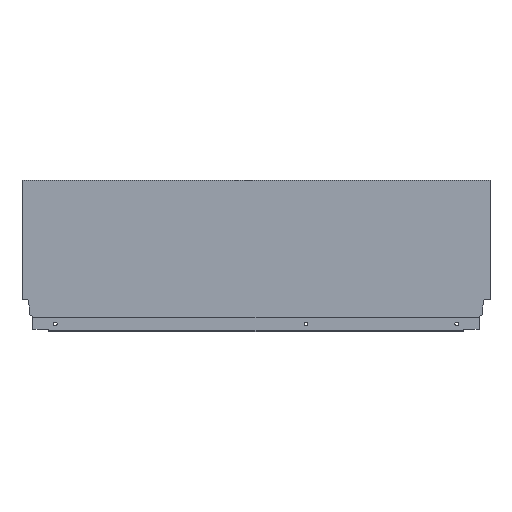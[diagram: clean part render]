
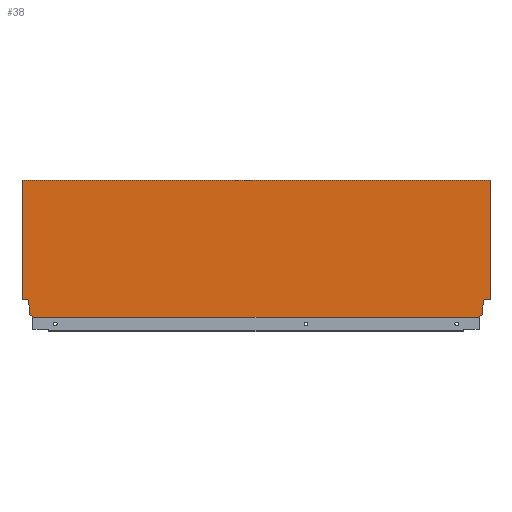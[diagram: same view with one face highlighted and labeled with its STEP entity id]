
A CAD part, top view. The second image highlights one B-rep face of the part: STEP entity #38.
In plain terms, the highlighted planar face has unit normal (0, 0, 1).
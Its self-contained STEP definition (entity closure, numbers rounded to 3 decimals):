
#38 = ADVANCED_FACE ( 'NONE', ( #87 ), #348, .T. ) ;
#87 = FACE_OUTER_BOUND ( 'NONE', #111, .T. ) ;
#111 = EDGE_LOOP ( 'NONE', ( #1315, #1314, #1319, #1318, #1414, #1408, #1340, #1313, #1334, #1333, #1316, #1458, #1457, #1406 ) ) ;
#193 = DIRECTION ( 'NONE',  ( 1., 0., 0. ) ) ;
#194 = CARTESIAN_POINT ( 'NONE',  ( -563., 164.7, 7.5 ) ) ;
#195 = DIRECTION ( 'NONE',  ( -1., 0., 0. ) ) ;
#197 = CARTESIAN_POINT ( 'NONE',  ( -568., 21.2, 7.5 ) ) ;
#227 = CARTESIAN_POINT ( 'NONE',  ( 0., 164.7, 7.5 ) ) ;
#242 = CARTESIAN_POINT ( 'NONE',  ( -8.9, 2.64, 7.5 ) ) ;
#243 = CARTESIAN_POINT ( 'NONE',  ( -13.004, 1.146, 7.5 ) ) ;
#249 = CARTESIAN_POINT ( 'NONE',  ( -555.94, 21.2, 7.5 ) ) ;
#261 = CARTESIAN_POINT ( 'NONE',  ( -563., 21.2, 7.5 ) ) ;
#266 = CARTESIAN_POINT ( 'NONE',  ( -563., 164.7, 7.5 ) ) ;
#267 = CARTESIAN_POINT ( 'NONE',  ( -554.1, 10.765, 7.5 ) ) ;
#268 = CARTESIAN_POINT ( 'NONE',  ( 0., 21.2, 7.5 ) ) ;
#272 = CARTESIAN_POINT ( 'NONE',  ( -13.004, 0., 7.5 ) ) ;
#278 = CARTESIAN_POINT ( 'NONE',  ( -549.996, 0., 7.5 ) ) ;
#281 = CARTESIAN_POINT ( 'NONE',  ( -554.1, 2.64, 7.5 ) ) ;
#282 = CARTESIAN_POINT ( 'NONE',  ( -8.9, 10.765, 7.5 ) ) ;
#296 = CARTESIAN_POINT ( 'NONE',  ( -7.06, 21.2, 7.5 ) ) ;
#299 = CARTESIAN_POINT ( 'NONE',  ( -549.996, 1.146, 7.5 ) ) ;
#338 = DIRECTION ( 'NONE',  ( 1., 0., 0. ) ) ;
#339 = DIRECTION ( 'NONE',  ( 0., 0., 1. ) ) ;
#345 = CARTESIAN_POINT ( 'NONE',  ( -563., 0., 7.5 ) ) ;
#348 = PLANE ( 'NONE',  #807 ) ;
#362 = CARTESIAN_POINT ( 'NONE',  ( -563., 0., 7.5 ) ) ;
#373 = DIRECTION ( 'NONE',  ( 1., 0., 0. ) ) ;
#378 = CARTESIAN_POINT ( 'NONE',  ( -563., 0., 7.5 ) ) ;
#387 = DIRECTION ( 'NONE',  ( 0., 1., 0. ) ) ;
#389 = DIRECTION ( 'NONE',  ( -0.94, 0.342, 0. ) ) ;
#396 = CARTESIAN_POINT ( 'NONE',  ( -554.1, 2.64, 7.5 ) ) ;
#397 = DIRECTION ( 'NONE',  ( 0., -1., 0. ) ) ;
#424 = DIRECTION ( 'NONE',  ( 0., -1., 0. ) ) ;
#429 = CARTESIAN_POINT ( 'NONE',  ( 0., 0., 7.5 ) ) ;
#447 = CARTESIAN_POINT ( 'NONE',  ( -8.9, 10.765, 7.5 ) ) ;
#472 = DIRECTION ( 'NONE',  ( 0., -1., 0. ) ) ;
#475 = CARTESIAN_POINT ( 'NONE',  ( -555.94, 21.2, 7.5 ) ) ;
#476 = DIRECTION ( 'NONE',  ( -0.174, 0.985, 0. ) ) ;
#484 = CARTESIAN_POINT ( 'NONE',  ( -8.9, 2.64, 7.5 ) ) ;
#486 = DIRECTION ( 'NONE',  ( -0.94, -0.342, 0. ) ) ;
#493 = CARTESIAN_POINT ( 'NONE',  ( -13.004, 1.146, 7.5 ) ) ;
#494 = DIRECTION ( 'NONE',  ( 0., -1., 0. ) ) ;
#501 = VERTEX_POINT ( 'NONE', #299 ) ;
#506 = VERTEX_POINT ( 'NONE', #296 ) ;
#523 = VERTEX_POINT ( 'NONE', #282 ) ;
#524 = VERTEX_POINT ( 'NONE', #281 ) ;
#527 = VERTEX_POINT ( 'NONE', #278 ) ;
#533 = VERTEX_POINT ( 'NONE', #272 ) ;
#537 = VERTEX_POINT ( 'NONE', #268 ) ;
#538 = VERTEX_POINT ( 'NONE', #267 ) ;
#539 = VERTEX_POINT ( 'NONE', #266 ) ;
#544 = VERTEX_POINT ( 'NONE', #261 ) ;
#557 = VERTEX_POINT ( 'NONE', #249 ) ;
#563 = VERTEX_POINT ( 'NONE', #243 ) ;
#564 = VERTEX_POINT ( 'NONE', #242 ) ;
#579 = VERTEX_POINT ( 'NONE', #227 ) ;
#587 = CARTESIAN_POINT ( 'NONE',  ( -554.1, 10.765, 7.5 ) ) ;
#646 = DIRECTION ( 'NONE',  ( -0.174, -0.985, 0. ) ) ;
#648 = CARTESIAN_POINT ( 'NONE',  ( -7.06, 21.2, 7.5 ) ) ;
#651 = DIRECTION ( 'NONE',  ( -1., 0., 0. ) ) ;
#652 = CARTESIAN_POINT ( 'NONE',  ( 0., 21.2, 7.5 ) ) ;
#653 = DIRECTION ( 'NONE',  ( 0., 1., 0. ) ) ;
#654 = CARTESIAN_POINT ( 'NONE',  ( -549.996, 1.146, 7.5 ) ) ;
#710 = EDGE_CURVE ( 'NONE', #527, #533, #910, .T. ) ;
#714 = EDGE_CURVE ( 'NONE', #563, #533, #915, .T. ) ;
#716 = EDGE_CURVE ( 'NONE', #524, #538, #914, .T. ) ;
#717 = EDGE_CURVE ( 'NONE', #539, #544, #906, .T. ) ;
#719 = EDGE_CURVE ( 'NONE', #501, #524, #919, .T. ) ;
#723 = EDGE_CURVE ( 'NONE', #579, #537, #931, .T. ) ;
#766 = EDGE_CURVE ( 'NONE', #523, #564, #1016, .T. ) ;
#769 = EDGE_CURVE ( 'NONE', #538, #557, #1025, .T. ) ;
#771 = EDGE_CURVE ( 'NONE', #564, #563, #1029, .T. ) ;
#807 = AXIS2_PLACEMENT_3D ( 'NONE', #345, #339, #338 ) ;
#864 = EDGE_CURVE ( 'NONE', #527, #501, #1086, .T. ) ;
#865 = EDGE_CURVE ( 'NONE', #537, #506, #1088, .T. ) ;
#866 = EDGE_CURVE ( 'NONE', #506, #523, #1090, .T. ) ;
#890 = EDGE_CURVE ( 'NONE', #557, #544, #1136, .T. ) ;
#891 = EDGE_CURVE ( 'NONE', #539, #579, #1138, .T. ) ;
#906 = LINE ( 'NONE', #378, #924 ) ;
#908 = VECTOR ( 'NONE', #373, 1000. ) ;
#910 = LINE ( 'NONE', #362, #908 ) ;
#914 = LINE ( 'NONE', #587, #922 ) ;
#915 = LINE ( 'NONE', #493, #918 ) ;
#918 = VECTOR ( 'NONE', #494, 1000. ) ;
#919 = LINE ( 'NONE', #396, #928 ) ;
#922 = VECTOR ( 'NONE', #387, 1000. ) ;
#924 = VECTOR ( 'NONE', #397, 1000. ) ;
#928 = VECTOR ( 'NONE', #389, 1000. ) ;
#931 = LINE ( 'NONE', #429, #936 ) ;
#936 = VECTOR ( 'NONE', #424, 1000. ) ;
#1016 = LINE ( 'NONE', #447, #1017 ) ;
#1017 = VECTOR ( 'NONE', #472, 1000. ) ;
#1025 = LINE ( 'NONE', #475, #1026 ) ;
#1026 = VECTOR ( 'NONE', #476, 1000. ) ;
#1029 = LINE ( 'NONE', #484, #1030 ) ;
#1030 = VECTOR ( 'NONE', #486, 1000. ) ;
#1086 = LINE ( 'NONE', #654, #1087 ) ;
#1087 = VECTOR ( 'NONE', #653, 1000. ) ;
#1088 = LINE ( 'NONE', #652, #1089 ) ;
#1089 = VECTOR ( 'NONE', #651, 1000. ) ;
#1090 = LINE ( 'NONE', #648, #1091 ) ;
#1091 = VECTOR ( 'NONE', #646, 1000. ) ;
#1136 = LINE ( 'NONE', #197, #1137 ) ;
#1137 = VECTOR ( 'NONE', #195, 1000. ) ;
#1138 = LINE ( 'NONE', #194, #1139 ) ;
#1139 = VECTOR ( 'NONE', #193, 1000. ) ;
#1313 = ORIENTED_EDGE ( 'NONE', *, *, #714, .F. ) ;
#1314 = ORIENTED_EDGE ( 'NONE', *, *, #890, .F. ) ;
#1315 = ORIENTED_EDGE ( 'NONE', *, *, #717, .T. ) ;
#1316 = ORIENTED_EDGE ( 'NONE', *, *, #866, .F. ) ;
#1318 = ORIENTED_EDGE ( 'NONE', *, *, #716, .F. ) ;
#1319 = ORIENTED_EDGE ( 'NONE', *, *, #769, .F. ) ;
#1333 = ORIENTED_EDGE ( 'NONE', *, *, #766, .F. ) ;
#1334 = ORIENTED_EDGE ( 'NONE', *, *, #771, .F. ) ;
#1340 = ORIENTED_EDGE ( 'NONE', *, *, #710, .T. ) ;
#1406 = ORIENTED_EDGE ( 'NONE', *, *, #891, .F. ) ;
#1408 = ORIENTED_EDGE ( 'NONE', *, *, #864, .F. ) ;
#1414 = ORIENTED_EDGE ( 'NONE', *, *, #719, .F. ) ;
#1457 = ORIENTED_EDGE ( 'NONE', *, *, #723, .F. ) ;
#1458 = ORIENTED_EDGE ( 'NONE', *, *, #865, .F. ) ;
